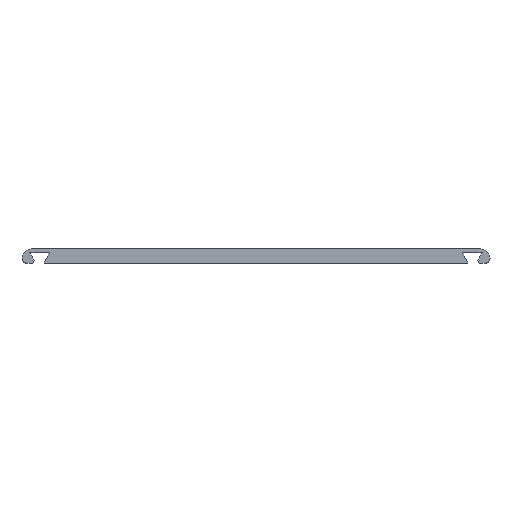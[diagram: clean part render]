
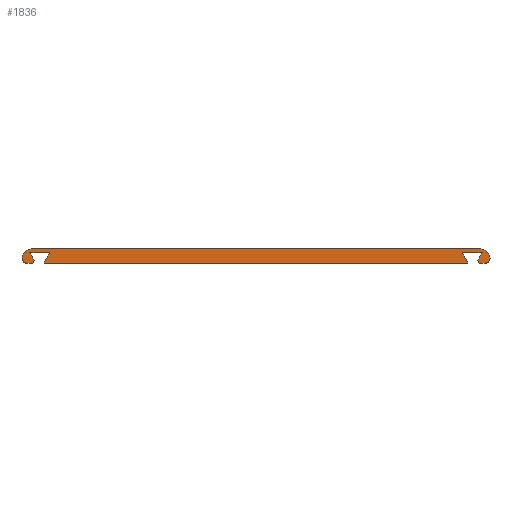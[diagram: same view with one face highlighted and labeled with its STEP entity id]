
A CAD part, left-side view. The second image highlights one B-rep face of the part: STEP entity #1836.
In plain terms, the highlighted planar face has unit normal (-1, 0, 0).
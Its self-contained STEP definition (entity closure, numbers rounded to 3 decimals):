
#40 = ORIENTED_EDGE ( 'NONE', *, *, #3055, .F. ) ;
#127 = VECTOR ( 'NONE', #2804, 1000. ) ;
#129 = ORIENTED_EDGE ( 'NONE', *, *, #687, .T. ) ;
#163 = CARTESIAN_POINT ( 'NONE',  ( -71.046, -24.531, 60.2 ) ) ;
#184 = VERTEX_POINT ( 'NONE', #2140 ) ;
#185 = CIRCLE ( 'NONE', #2260, 59.8 ) ;
#188 = ORIENTED_EDGE ( 'NONE', *, *, #355, .F. ) ;
#223 = VECTOR ( 'NONE', #4294, 1000. ) ;
#245 = DIRECTION ( 'NONE',  ( 0., 1., 0. ) ) ;
#248 = DIRECTION ( 'NONE',  ( -1., 0., 0. ) ) ;
#256 = AXIS2_PLACEMENT_3D ( 'NONE', #656, #248, #4129 ) ;
#304 = CARTESIAN_POINT ( 'NONE',  ( -71.046, 17.292, 30.5 ) ) ;
#310 = AXIS2_PLACEMENT_3D ( 'NONE', #304, #312, #1701 ) ;
#312 = DIRECTION ( 'NONE',  ( -1., 0., 0. ) ) ;
#327 = DIRECTION ( 'NONE',  ( 0., -1., 0. ) ) ;
#355 = EDGE_CURVE ( 'NONE', #951, #1523, #3077, .T. ) ;
#414 = CARTESIAN_POINT ( 'NONE',  ( -71.046, 65.668, 58.558 ) ) ;
#433 = ORIENTED_EDGE ( 'NONE', *, *, #3893, .F. ) ;
#451 = CARTESIAN_POINT ( 'NONE',  ( -71.046, -28.156, 58. ) ) ;
#452 = EDGE_CURVE ( 'NONE', #3005, #2354, #4406, .T. ) ;
#467 = DIRECTION ( 'NONE',  ( 0., 1., 0. ) ) ;
#484 = VERTEX_POINT ( 'NONE', #3773 ) ;
#492 = CARTESIAN_POINT ( 'NONE',  ( -71.046, 66.011, 58. ) ) ;
#528 = CARTESIAN_POINT ( 'NONE',  ( -71.046, -25.73, 58. ) ) ;
#540 = CARTESIAN_POINT ( 'NONE',  ( -71.046, 66.23, 59. ) ) ;
#599 = ORIENTED_EDGE ( 'NONE', *, *, #4329, .T. ) ;
#604 = DIRECTION ( 'NONE',  ( -1., 0., 0. ) ) ;
#656 = CARTESIAN_POINT ( 'NONE',  ( -71.046, -28.375, 59. ) ) ;
#671 = VERTEX_POINT ( 'NONE', #528 ) ;
#687 = EDGE_CURVE ( 'NONE', #3887, #1968, #4585, .T. ) ;
#786 = CIRCLE ( 'NONE', #4390, 59.8 ) ;
#793 = AXIS2_PLACEMENT_3D ( 'NONE', #848, #3010, #4413 ) ;
#848 = CARTESIAN_POINT ( 'NONE',  ( -71.046, 67.23, 59. ) ) ;
#870 = CARTESIAN_POINT ( 'NONE',  ( -71.046, 67.23, 58. ) ) ;
#871 = EDGE_CURVE ( 'NONE', #484, #1780, #3413, .T. ) ;
#951 = VERTEX_POINT ( 'NONE', #1018 ) ;
#962 = EDGE_CURVE ( 'NONE', #3530, #2463, #1263, .T. ) ;
#1018 = CARTESIAN_POINT ( 'NONE',  ( -71.046, -28.719, 60.2 ) ) ;
#1063 = EDGE_CURVE ( 'NONE', #2023, #1968, #3366, .T. ) ;
#1064 = ORIENTED_EDGE ( 'NONE', *, *, #962, .F. ) ;
#1114 = CARTESIAN_POINT ( 'NONE',  ( -71.046, 63.585, 58. ) ) ;
#1185 = DIRECTION ( 'NONE',  ( 0., 1., 0. ) ) ;
#1212 = CARTESIAN_POINT ( 'NONE',  ( -71.046, -25.955, 60.2 ) ) ;
#1233 = ORIENTED_EDGE ( 'NONE', *, *, #4131, .F. ) ;
#1263 = CIRCLE ( 'NONE', #3790, 59.8 ) ;
#1279 = VECTOR ( 'NONE', #467, 1000. ) ;
#1328 = CIRCLE ( 'NONE', #2660, 1. ) ;
#1521 = FACE_OUTER_BOUND ( 'NONE', #2024, .T. ) ;
#1523 = VERTEX_POINT ( 'NONE', #163 ) ;
#1525 = CIRCLE ( 'NONE', #3291, 2. ) ;
#1539 = DIRECTION ( 'NONE',  ( 0., 1., 0. ) ) ;
#1579 = EDGE_CURVE ( 'NONE', #484, #3887, #1525, .T. ) ;
#1616 = VERTEX_POINT ( 'NONE', #3424 ) ;
#1701 = DIRECTION ( 'NONE',  ( 0., 1., 0. ) ) ;
#1756 = CARTESIAN_POINT ( 'NONE',  ( -71.046, -27.813, 58.558 ) ) ;
#1769 = DIRECTION ( 'NONE',  ( 1., 0., 0. ) ) ;
#1780 = VERTEX_POINT ( 'NONE', #4555 ) ;
#1803 = CARTESIAN_POINT ( 'NONE',  ( -71.046, 62.386, 60.2 ) ) ;
#1823 = CARTESIAN_POINT ( 'NONE',  ( -71.046, -80.622, 30.5 ) ) ;
#1831 = CARTESIAN_POINT ( 'NONE',  ( -71.046, 20.563, 30.5 ) ) ;
#1836 = ADVANCED_FACE ( 'NONE', ( #1521 ), #2550, .T. ) ;
#1968 = VERTEX_POINT ( 'NONE', #870 ) ;
#2003 = ORIENTED_EDGE ( 'NONE', *, *, #452, .F. ) ;
#2023 = VERTEX_POINT ( 'NONE', #492 ) ;
#2024 = EDGE_LOOP ( 'NONE', ( #3687, #599, #3233, #2078, #3396, #129, #3191, #1233, #433, #2548, #1064, #3022, #2198, #188, #40, #2003 ) ) ;
#2078 = ORIENTED_EDGE ( 'NONE', *, *, #871, .F. ) ;
#2094 = LINE ( 'NONE', #2783, #127 ) ;
#2133 = VECTOR ( 'NONE', #245, 1000. ) ;
#2140 = CARTESIAN_POINT ( 'NONE',  ( -71.046, -30.375, 59. ) ) ;
#2167 = CARTESIAN_POINT ( 'NONE',  ( -71.046, -25.73, 58. ) ) ;
#2198 = ORIENTED_EDGE ( 'NONE', *, *, #3070, .F. ) ;
#2226 = DIRECTION ( 'NONE',  ( 1., 0., 0. ) ) ;
#2227 = AXIS2_PLACEMENT_3D ( 'NONE', #3881, #1769, #2489 ) ;
#2242 = EDGE_CURVE ( 'NONE', #184, #1780, #2684, .T. ) ;
#2260 = AXIS2_PLACEMENT_3D ( 'NONE', #1823, #3338, #1185 ) ;
#2262 = DIRECTION ( 'NONE',  ( -1., 0., 0. ) ) ;
#2314 = VECTOR ( 'NONE', #1539, 1000. ) ;
#2354 = VERTEX_POINT ( 'NONE', #1756 ) ;
#2368 = DIRECTION ( 'NONE',  ( 0., -1., 0. ) ) ;
#2395 = CARTESIAN_POINT ( 'NONE',  ( -71.046, -30.375, 61. ) ) ;
#2430 = CARTESIAN_POINT ( 'NONE',  ( -71.046, 10.483, 30.5 ) ) ;
#2463 = VERTEX_POINT ( 'NONE', #1803 ) ;
#2489 = DIRECTION ( 'NONE',  ( 0., -1., 0. ) ) ;
#2548 = ORIENTED_EDGE ( 'NONE', *, *, #3114, .F. ) ;
#2550 = PLANE ( 'NONE',  #3207 ) ;
#2660 = AXIS2_PLACEMENT_3D ( 'NONE', #4246, #3477, #2829 ) ;
#2684 = CIRCLE ( 'NONE', #256, 2. ) ;
#2738 = DIRECTION ( 'NONE',  ( 0., -1., 0. ) ) ;
#2783 = CARTESIAN_POINT ( 'NONE',  ( -71.046, -30.375, 58. ) ) ;
#2804 = DIRECTION ( 'NONE',  ( 0., 1., 0. ) ) ;
#2827 = CARTESIAN_POINT ( 'NONE',  ( -71.046, 68.23, 59. ) ) ;
#2829 = DIRECTION ( 'NONE',  ( 0., -1., 0. ) ) ;
#2878 = EDGE_CURVE ( 'NONE', #1616, #3005, #2094, .T. ) ;
#2971 = EDGE_CURVE ( 'NONE', #671, #3530, #4084, .T. ) ;
#2993 = LINE ( 'NONE', #3676, #2314 ) ;
#3005 = VERTEX_POINT ( 'NONE', #451 ) ;
#3010 = DIRECTION ( 'NONE',  ( -1., 0., 0. ) ) ;
#3022 = ORIENTED_EDGE ( 'NONE', *, *, #2971, .F. ) ;
#3046 = CARTESIAN_POINT ( 'NONE',  ( -71.046, 66.574, 60.2 ) ) ;
#3055 = EDGE_CURVE ( 'NONE', #2354, #951, #185, .T. ) ;
#3070 = EDGE_CURVE ( 'NONE', #1523, #671, #786, .T. ) ;
#3077 = LINE ( 'NONE', #1212, #2133 ) ;
#3114 = EDGE_CURVE ( 'NONE', #2463, #4138, #2993, .T. ) ;
#3120 = DIRECTION ( 'NONE',  ( 1., 0., 0. ) ) ;
#3191 = ORIENTED_EDGE ( 'NONE', *, *, #1063, .F. ) ;
#3207 = AXIS2_PLACEMENT_3D ( 'NONE', #1831, #3953, #3252 ) ;
#3233 = ORIENTED_EDGE ( 'NONE', *, *, #2242, .T. ) ;
#3252 = DIRECTION ( 'NONE',  ( 0., -1., 0. ) ) ;
#3291 = AXIS2_PLACEMENT_3D ( 'NONE', #540, #2262, #4441 ) ;
#3301 = VECTOR ( 'NONE', #2738, 1000. ) ;
#3338 = DIRECTION ( 'NONE',  ( 1., 0., 0. ) ) ;
#3349 = CARTESIAN_POINT ( 'NONE',  ( -71.046, 27.372, 30.5 ) ) ;
#3366 = LINE ( 'NONE', #3594, #223 ) ;
#3396 = ORIENTED_EDGE ( 'NONE', *, *, #1579, .T. ) ;
#3413 = LINE ( 'NONE', #2395, #3301 ) ;
#3424 = CARTESIAN_POINT ( 'NONE',  ( -71.046, -29.375, 58. ) ) ;
#3477 = DIRECTION ( 'NONE',  ( -1., 0., 0. ) ) ;
#3493 = VERTEX_POINT ( 'NONE', #414 ) ;
#3506 = AXIS2_PLACEMENT_3D ( 'NONE', #4492, #604, #2368 ) ;
#3530 = VERTEX_POINT ( 'NONE', #1114 ) ;
#3561 = CIRCLE ( 'NONE', #3506, 53.121 ) ;
#3594 = CARTESIAN_POINT ( 'NONE',  ( -71.046, 66.011, 58. ) ) ;
#3676 = CARTESIAN_POINT ( 'NONE',  ( -71.046, 62.386, 60.2 ) ) ;
#3687 = ORIENTED_EDGE ( 'NONE', *, *, #2878, .F. ) ;
#3773 = CARTESIAN_POINT ( 'NONE',  ( -71.046, 66.23, 61. ) ) ;
#3790 = AXIS2_PLACEMENT_3D ( 'NONE', #2430, #3120, #327 ) ;
#3881 = CARTESIAN_POINT ( 'NONE',  ( -71.046, 118.477, 30.5 ) ) ;
#3887 = VERTEX_POINT ( 'NONE', #2827 ) ;
#3893 = EDGE_CURVE ( 'NONE', #4138, #3493, #3955, .T. ) ;
#3953 = DIRECTION ( 'NONE',  ( -1., 0., 0. ) ) ;
#3955 = CIRCLE ( 'NONE', #2227, 59.8 ) ;
#3994 = DIRECTION ( 'NONE',  ( 0., 1., 0. ) ) ;
#4084 = LINE ( 'NONE', #2167, #1279 ) ;
#4129 = DIRECTION ( 'NONE',  ( 0., -1., 0. ) ) ;
#4131 = EDGE_CURVE ( 'NONE', #3493, #2023, #3561, .T. ) ;
#4138 = VERTEX_POINT ( 'NONE', #3046 ) ;
#4246 = CARTESIAN_POINT ( 'NONE',  ( -71.046, -29.375, 59. ) ) ;
#4294 = DIRECTION ( 'NONE',  ( 0., 1., 0. ) ) ;
#4329 = EDGE_CURVE ( 'NONE', #1616, #184, #1328, .T. ) ;
#4390 = AXIS2_PLACEMENT_3D ( 'NONE', #3349, #2226, #3994 ) ;
#4406 = CIRCLE ( 'NONE', #310, 53.121 ) ;
#4413 = DIRECTION ( 'NONE',  ( 0., -1., 0. ) ) ;
#4441 = DIRECTION ( 'NONE',  ( 0., -1., 0. ) ) ;
#4492 = CARTESIAN_POINT ( 'NONE',  ( -71.046, 20.563, 30.5 ) ) ;
#4555 = CARTESIAN_POINT ( 'NONE',  ( -71.046, -28.375, 61. ) ) ;
#4585 = CIRCLE ( 'NONE', #793, 1. ) ;
